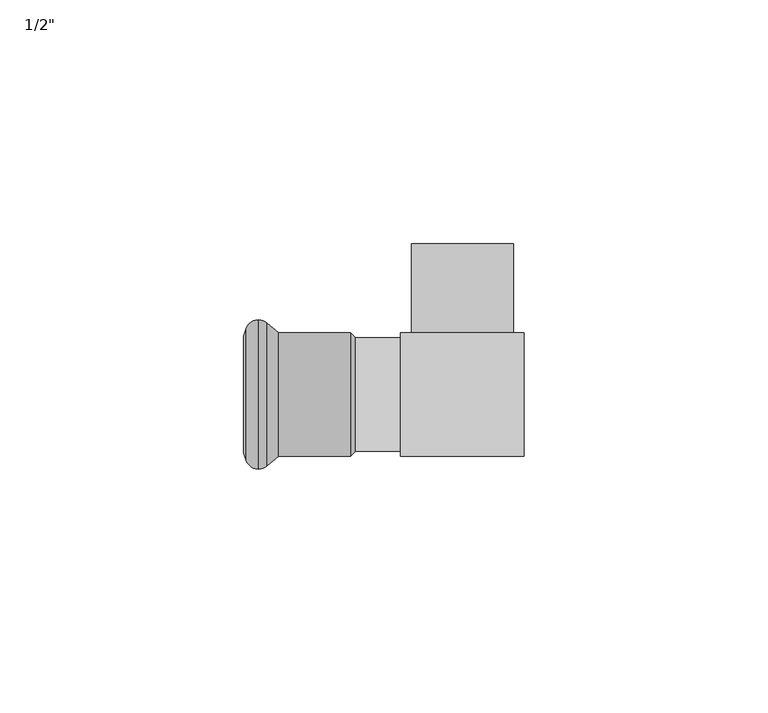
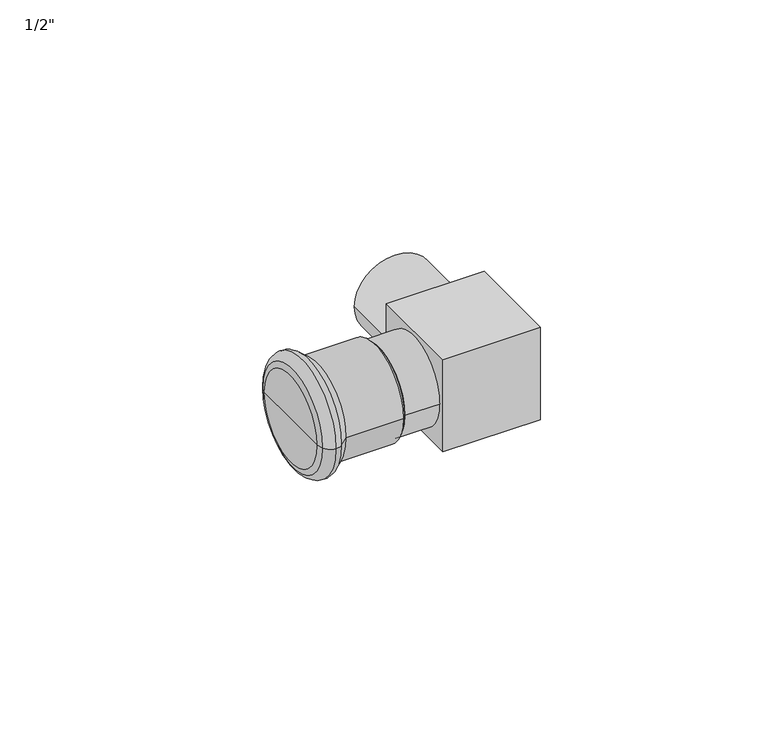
"""IFC4 building model written with IfcOpenShell, lengths in millimetres: pipe fitting geometry."""

from ifc_helpers import new_model, si_unit, point, frame, origin, origin_2d, place, context, project, spatial, polyline, circle_curve, ellipse_curve, trimmed, segment, composite_curve, outline, extrude, source, transform, mapped, element, save
from ifc_brep_helpers import plane_surface, cylinder_surface, revolved_surface, advanced_brep


def pipe_fitting_8f5b5a92(model_context):
    return source(origin(), model_context, "Body", "SolidModel", [
        extrude(outline(composite_curve([segment(trimmed(circle_curve(origin_2d(), 10.5), [point((0.0, -10.5))], [point((0.0, 10.5))], False, "CARTESIAN"), True, "CONTINUOUS"), segment(trimmed(circle_curve(origin_2d(), 10.5), [point((0.0, 10.5))], [point((0.0, -10.5))], False, "CARTESIAN"), True, "CONTINUOUS")], self_intersect=False)), frame((0.0, 12.7, 0.0), z_axis=(0.0, 1.0, 0.0), x_axis=(0.0, 0.0, 1.0)), (0.0, 0.0, 1.0), 18.3),
        extrude(outline(polyline([(-12.7, -12.7), (-12.7, 12.7), (12.7, 12.7), (12.7, -12.7), (-12.7, -12.7)])), frame((0.0, 0.0, -12.7), z_axis=(0.0, 0.0, 1.0), x_axis=(1.0, 0.0, 0.0)), (0.0, 0.0, 1.0), 25.4),
        extrude(outline(composite_curve([segment(trimmed(circle_curve(origin_2d(), 11.7), [point((11.7, 0.0))], [point((-11.7, 0.0))], False, "CARTESIAN"), True, "CONTINUOUS"), segment(trimmed(circle_curve(origin_2d(), 11.7), [point((-11.7, 0.0))], [point((11.7, 0.0))], False, "CARTESIAN"), True, "CONTINUOUS")], self_intersect=False)), frame((-22.0, 0.0, 0.0), z_axis=(1.0, 0.0, 0.0), x_axis=(0.0, 1.0, 0.0)), (0.0, 0.0, 1.0), 9.3),
        advanced_brep(
        [(-37.7838092, -12.7, 0.0), (-37.7838092, 12.7, 0.0), (-23.0, 12.7, 0.0), (-23.0, -12.7, 0.0), (-40.0922627, -14.6370225, 0.0), (-40.0922627, 14.6370225, 0.0), (-41.8921278, -15.325, 0.0), (-41.8921278, 15.325, 0.0), (-44.432052, -13.5484544, 0.0), (-44.432052, 13.5484544, 0.0), (-45.0, -11.9880302, 0.0), (-45.0, 11.9880302, 0.0), (-45.0, 0.0, 0.0), (-22.0, 11.7, 0.0), (-22.0, -11.7, 0.0), (-22.0, 0.0, 0.0)],
        [
            (0, 1, circle_curve(frame((-37.7838092, 0.0, 0.0), z_axis=(1.0, 0.0, 0.0), x_axis=(0.0, 1.0, 0.0)), 12.7)),
            (1, 2),
            (2, 3, circle_curve(frame((-23.0, 0.0, 0.0), z_axis=(-1.0, 0.0, 0.0), x_axis=(0.0, 1.0, 0.0)), 12.7)),
            (3, 0),
            (1, 0, circle_curve(frame((-37.7838092, 0.0, 0.0), z_axis=(1.0, 0.0, 0.0), x_axis=(0.0, 1.0, 0.0)), 12.7)),
            (3, 2, circle_curve(frame((-23.0, 0.0, 0.0), z_axis=(-1.0, 0.0, 0.0), x_axis=(0.0, 1.0, 0.0)), 12.7)),
            (4, 5, circle_curve(frame((-40.0922627, 0.0, 0.0), z_axis=(1.0, 0.0, 0.0), x_axis=(0.0, 1.0, 0.0)), 14.6370225)),
            (5, 1),
            (0, 4),
            (5, 4, circle_curve(frame((-40.0922627, 0.0, 0.0), z_axis=(1.0, 0.0, 0.0), x_axis=(0.0, 1.0, 0.0)), 14.6370225)),
            (6, 7, circle_curve(frame((-41.8921278, 0.0, 0.0), z_axis=(1.0, 0.0, 0.0), x_axis=(0.0, 1.0, 0.0)), 15.325)),
            (7, 5, circle_curve(frame((-41.8935049, 12.6230333, 0.0), z_axis=(0.0, 0.0, -1.0), x_axis=(1.0, 0.0, 0.0)), 2.701967)),
            (4, 6, circle_curve(frame((-41.8935049, -12.6230333, 0.0), z_axis=(0.0, 0.0, -1.0), x_axis=(1.0, 0.0, 0.0)), 2.701967)),
            (7, 6, circle_curve(frame((-41.8921278, 0.0, 0.0), z_axis=(1.0, 0.0, 0.0), x_axis=(0.0, 1.0, 0.0)), 15.325)),
            (8, 9, circle_curve(frame((-44.432052, 0.0, 0.0), z_axis=(1.0, 0.0, 0.0), x_axis=(0.0, 1.0, 0.0)), 13.5484544)),
            (9, 7, circle_curve(frame((-41.89488, 12.6249993, 0.0), z_axis=(0.0, 0.0, -1.0), x_axis=(1.0, 0.0, 0.0)), 2.7000021)),
            (6, 8, circle_curve(frame((-41.89488, -12.6249993, 0.0), z_axis=(0.0, 0.0, -1.0), x_axis=(1.0, 0.0, 0.0)), 2.7000021)),
            (9, 8, circle_curve(frame((-44.432052, 0.0, 0.0), z_axis=(1.0, 0.0, 0.0), x_axis=(0.0, 1.0, 0.0)), 13.5484544)),
            (10, 11, circle_curve(frame((-45.0, 0.0, 0.0), z_axis=(1.0, 0.0, 0.0), x_axis=(0.0, 1.0, 0.0)), 11.9880302)),
            (11, 9),
            (8, 10),
            (11, 10, circle_curve(frame((-45.0, 0.0, 0.0), z_axis=(1.0, 0.0, 0.0), x_axis=(0.0, 1.0, 0.0)), 11.9880302)),
            (12, 11),
            (10, 12),
            (2, 13),
            (13, 14, circle_curve(frame((-22.0, 0.0, 0.0), z_axis=(-1.0, 0.0, 0.0), x_axis=(0.0, 1.0, 0.0)), 11.7)),
            (14, 3),
            (14, 13, circle_curve(frame((-22.0, 0.0, 0.0), z_axis=(-1.0, 0.0, 0.0), x_axis=(0.0, 1.0, 0.0)), 11.7)),
            (13, 15),
            (15, 14),
        ],
        [
            cylinder_surface(frame((1334.742668, 0.0, 0.0), z_axis=(-1.0, 0.0, 0.0), x_axis=(0.0, 1.0, 0.0)), 12.7),
            revolved_surface(polyline([(-37.7838092, 12.7, 0.0), (-40.0922627, 14.6370225, 0.0)]), (1334.742668, 0.0, 0.0), (-1.0, 0.0, 0.0)),
            revolved_surface(trimmed(ellipse_curve(frame((-41.8935049, 12.6230333, 0.0), z_axis=(0.0, 0.0, 1.0), x_axis=(1.0, 0.0, 0.0)), 2.701967, 2.701967), [point((-40.0922627, 14.6370225, 0.0))], [point((-41.8921278, 15.325, 0.0))], True, "CARTESIAN"), (1334.742668, 0.0, 0.0), (-1.0, 0.0, 0.0)),
            revolved_surface(trimmed(ellipse_curve(frame((-41.89488, 12.6249993, 0.0), z_axis=(0.0, 0.0, 1.0), x_axis=(1.0, 0.0, 0.0)), 2.7000021, 2.7000021), [point((-41.8921278, 15.325, 0.0))], [point((-44.432052, 13.5484544, 0.0))], True, "CARTESIAN"), (1334.742668, 0.0, 0.0), (-1.0, 0.0, 0.0)),
            revolved_surface(polyline([(-44.432052, 13.5484544, 0.0), (-45.0, 11.9880302, 0.0)]), (1334.742668, 0.0, 0.0), (-1.0, 0.0, 0.0)),
            plane_surface(frame((-45.0, 0.0, 0.0), z_axis=(-1.0, 0.0, 0.0), x_axis=(0.0, 1.0, 0.0))),
            revolved_surface(polyline([(-22.0, 11.7, 0.0), (-23.0, 12.7, 0.0)]), (1334.742668, 0.0, 0.0), (-1.0, 0.0, 0.0)),
            plane_surface(frame((-22.0, 0.0, 0.0), z_axis=(1.0, 0.0, 0.0), x_axis=(0.0, 1.0, 0.0))),
        ],
        [
            (0, [[1, 2, 3, 4]]),
            (0, [[5, -4, 6, -2]]),
            (1, [[7, 8, -1, 9]]),
            (1, [[10, -9, -5, -8]]),
            (2, [[11, 12, -7, 13]]),
            (2, [[14, -13, -10, -12]]),
            (3, [[15, 16, -11, 17]]),
            (3, [[18, -17, -14, -16]]),
            (4, [[19, 20, -15, 21]]),
            (4, [[22, -21, -18, -20]]),
            (5, [[23, -19, 24]]),
            (5, [[-24, -22, -23]]),
            (6, [[-3, 25, 26, 27]]),
            (6, [[-6, -27, 28, -25]]),
            (7, [[-26, 29, 30]]),
            (7, [[-28, -30, -29]]),
        ],
    ),
    ])


if __name__ == "__main__":
    model = new_model("IFC4")
    model_context = context("Model", 3, world=origin())
    ifc_project = project(units=[si_unit("LENGTHUNIT", "METRE", prefix="MILLI")], contexts=[model_context])
    site = spatial("IfcSite", under=ifc_project)
    building = spatial("IfcBuilding", under=site)
    placement = place(None, origin())
    pipe_fitting_shape = pipe_fitting_8f5b5a92(model_context)
    element("IfcPipeFitting", 1, ObjectType="KAN-therm Steel kolano z GW krótkie : 1/2\"", at=placement, inside=building, context=model_context, shape_type="MappedRepresentation", body=[
        mapped(pipe_fitting_shape, transform((0.0, 0.0, 0.0), x_axis=(1.0, 0.0, 0.0), y_axis=(0.0, 1.0, 0.0), z_axis=(0.0, 0.0, 1.0))),
    ])
    save(model, "model.ifc")
